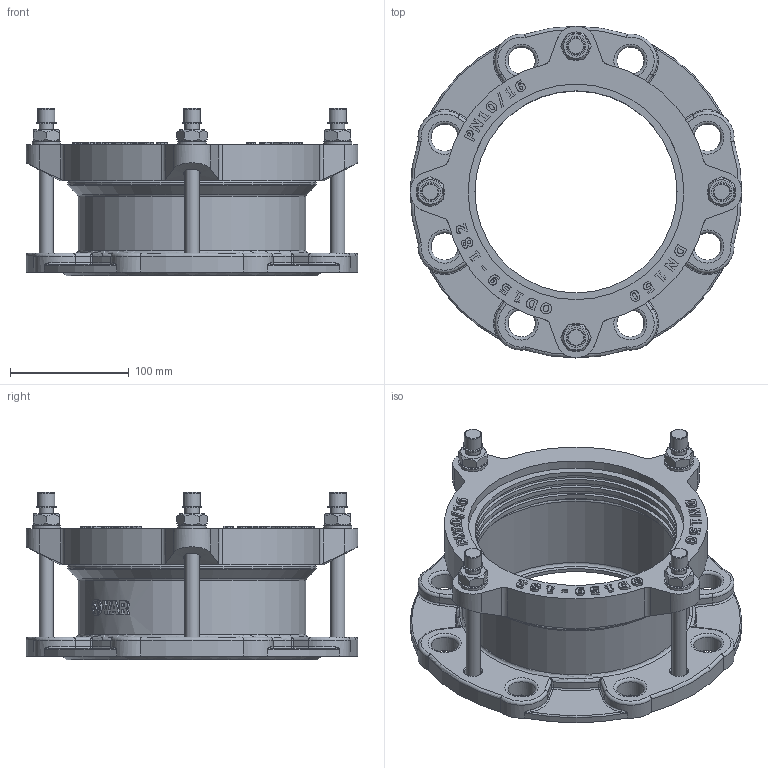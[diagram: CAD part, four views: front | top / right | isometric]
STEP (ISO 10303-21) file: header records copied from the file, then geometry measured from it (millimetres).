
FILE_DESCRIPTION(('STEP AP203'), '1');
FILE_NAME('Ôëàíöåâûé àäàïòåð', '', ('UNSPECIFIED'), ('UNSPECIFIED'), 'C3D Converter', 'C3D Toolkit', '');
FILE_SCHEMA(('CONFIG_CONTROL_DESIGN'));
Length unit declared in the file: millimetre
Assembly tree (19 placements, depth 2):
  (unnamed)
    (unnamed)
    (unnamed)  x4
    (unnamed)  x4
    (unnamed)  x4
    (unnamed)  x4
    (unnamed)
    (unnamed)
Bounding box: 280 x 280 x 141.2 mm (x, y, z)
Volume: 1288641.8 mm3; surface area: 372190.7 mm2
Topology: 19 solids, 19 shells, 1039 faces, 2644 edges, 1646 vertices
Faces by surface type: plane 342, extrusion 336, cylinder 202, torus 71, cone 32, bspline 32, sphere 24
Full cylindrical faces by diameter (mm): 12 x12, 13 x4, 13.478 x1, 14 x8, 14.4 x4, 16.8 x4, 23 x8, 24 x4, 170.5 x5, 176.25 x3, 182 x2, 187 x1, 192 x2, 209.5 x1, 212 x2
Entity records: 40794 total; most frequent: CARTESIAN_POINT 15218, ORIENTED_EDGE 4558, DIRECTION 3425, EDGE_CURVE 2279, VERTEX_POINT 1490, VECTOR 1329, B_SPLINE_CURVE_WITH_KNOTS 1117, EDGE_LOOP 1083
